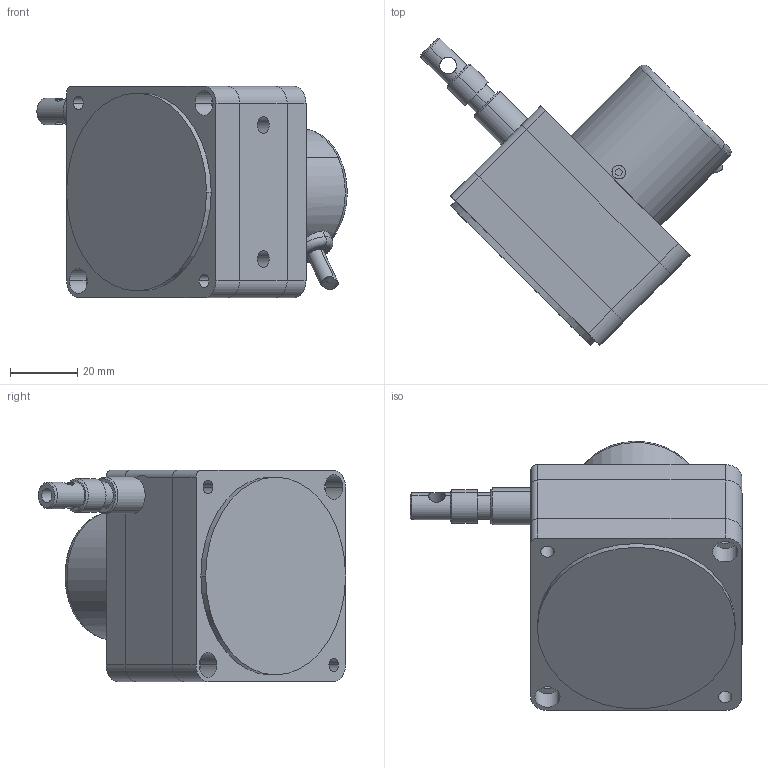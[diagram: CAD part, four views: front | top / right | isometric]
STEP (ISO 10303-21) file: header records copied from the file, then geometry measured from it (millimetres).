
FILE_DESCRIPTION(/* description */ (''),/* implementation_level */ '2;1');
FILE_NAME(/* name */ 'IP54 BRT38 2m-数字量 -模型.stp',/* time_stamp */ '2023-02-02T15:32:39+08:00',/* author */ (''),/* organization */ (''),/* preprocessor_version */ 'ST-DEVELOPER v16.7',/* originating_system */ 'SIEMENS PLM Software NX 12.0',/* authorisation */ '');
FILE_SCHEMA (('AUTOMOTIVE_DESIGN { 1 0 10303 214 3 1 1 1 }'));
Length unit declared in the file: millimetre
Products named in the file (1): Leno8D78764Afzj9
Bounding box: 92.49 x 91.57 x 63 mm (x, y, z)
Volume: 194810.9 mm3; surface area: 46588.3 mm2
Topology: 6 solids, 7 shells, 209 faces, 502 edges, 323 vertices
Faces by surface type: cylinder 106, plane 60, bspline 19, cone 16, torus 8
Full cylindrical faces by diameter (mm): 5 x1
Entity records: 8315 total; most frequent: CARTESIAN_POINT 3378, DIRECTION 1017, ORIENTED_EDGE 986, EDGE_CURVE 493, AXIS2_PLACEMENT_3D 414, VERTEX_POINT 323, EDGE_LOOP 260, CIRCLE 223
